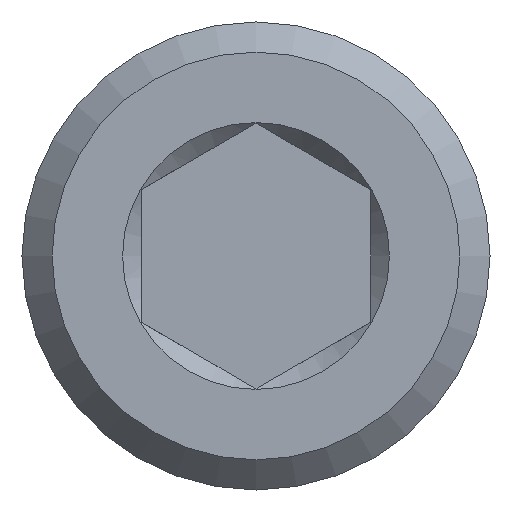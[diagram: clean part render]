
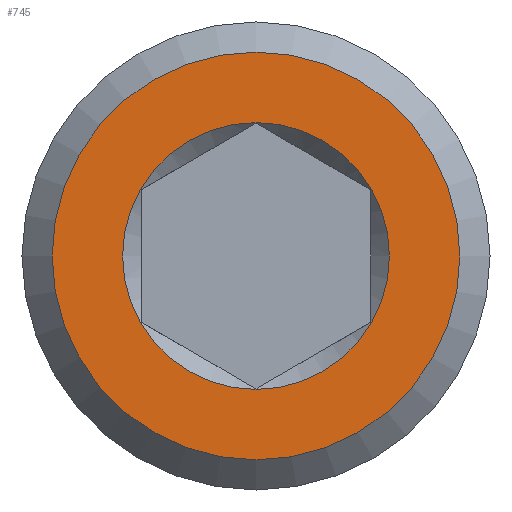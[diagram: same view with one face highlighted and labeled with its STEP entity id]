
A CAD part, front view. The second image highlights one B-rep face of the part: STEP entity #745.
In plain terms, the highlighted planar face has unit normal (0, -1, 0).
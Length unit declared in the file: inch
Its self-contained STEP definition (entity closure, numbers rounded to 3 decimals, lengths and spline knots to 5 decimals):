
#21=FACE_BOUND('',#153,.T.);
#71=CIRCLE('',#822,0.108);
#72=CIRCLE('',#824,0.165);
#111=FACE_OUTER_BOUND('',#152,.T.);
#152=EDGE_LOOP('',(#645));
#153=EDGE_LOOP('',(#646));
#344=VERTEX_POINT('',#1369);
#345=VERTEX_POINT('',#1373);
#449=EDGE_CURVE('',#344,#344,#71,.T.);
#450=EDGE_CURVE('',#345,#345,#72,.T.);
#645=ORIENTED_EDGE('',*,*,#450,.F.);
#646=ORIENTED_EDGE('',*,*,#449,.F.);
#711=PLANE('',#823);
#745=ADVANCED_FACE('',(#111,#21),#711,.T.);
#822=AXIS2_PLACEMENT_3D('',#1371,#985,#986);
#823=AXIS2_PLACEMENT_3D('',#1372,#987,#988);
#824=AXIS2_PLACEMENT_3D('',#1374,#989,#990);
#985=DIRECTION('center_axis',(0.,-1.,0.));
#986=DIRECTION('ref_axis',(0.,0.,1.));
#987=DIRECTION('center_axis',(0.,-1.,0.));
#988=DIRECTION('ref_axis',(0.,0.,-1.));
#989=DIRECTION('center_axis',(0.,1.,0.));
#990=DIRECTION('ref_axis',(0.,0.,1.));
#1369=CARTESIAN_POINT('',(0.,0.,-0.108));
#1371=CARTESIAN_POINT('Origin',(0.,0.,0.));
#1372=CARTESIAN_POINT('Origin',(0.,0.,-0.093));
#1373=CARTESIAN_POINT('',(0.,0.,-0.165));
#1374=CARTESIAN_POINT('Origin',(0.,0.,0.));
